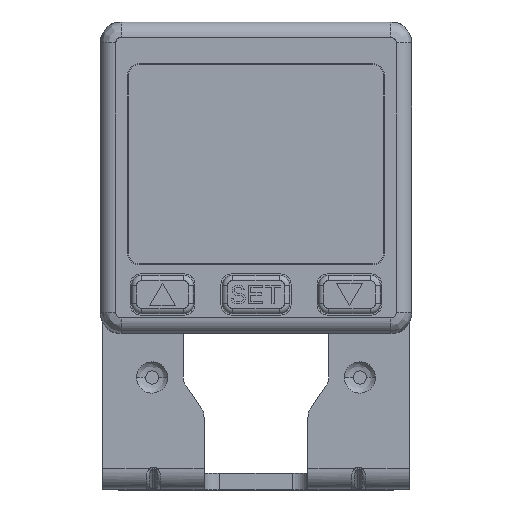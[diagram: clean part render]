
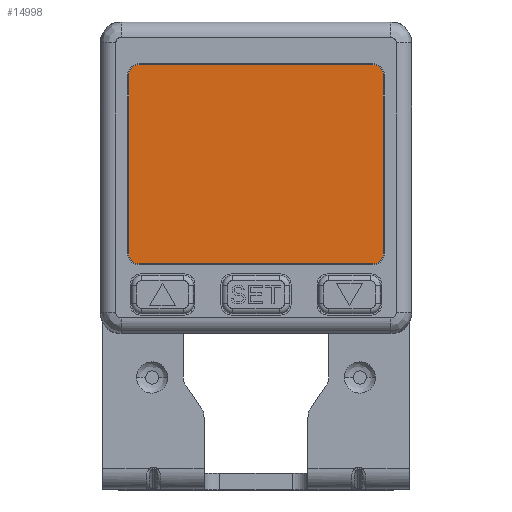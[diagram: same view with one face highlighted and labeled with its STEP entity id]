
A CAD part, top view. The second image highlights one B-rep face of the part: STEP entity #14998.
In plain terms, the highlighted planar face has unit normal (0, 0, 1).
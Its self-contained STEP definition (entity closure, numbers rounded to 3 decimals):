
#1349=CARTESIAN_POINT('',(8.499,19.758,40.525));
#1350=DIRECTION('',(0.,0.,1.));
#1351=DIRECTION('',(1.,0.,0.));
#1352=AXIS2_PLACEMENT_3D('',#1349,#1350,#1351);
#1362=CARTESIAN_POINT('',(8.499,2.558,40.525));
#1363=DIRECTION('',(0.,0.,1.));
#1364=DIRECTION('',(0.,-1.,0.));
#1365=AXIS2_PLACEMENT_3D('',#1362,#1363,#1364);
#1375=CARTESIAN_POINT('',(-14.001,2.558,40.525));
#1376=DIRECTION('',(0.,0.,1.));
#1377=DIRECTION('',(-1.,0.,0.));
#1378=AXIS2_PLACEMENT_3D('',#1375,#1376,#1377);
#1388=CARTESIAN_POINT('',(-14.001,19.758,40.525));
#1389=DIRECTION('',(0.,0.,1.));
#1390=DIRECTION('',(0.,1.,0.));
#1391=AXIS2_PLACEMENT_3D('',#1388,#1389,#1390);
#1397=DIRECTION('',(0.,1.,0.));
#1398=VECTOR('',#1397,17.2);
#1399=CARTESIAN_POINT('',(-15.001,2.558,40.525));
#1400=LINE('',#1399,#1398);
#1401=DIRECTION('',(1.,0.,0.));
#1402=VECTOR('',#1401,22.5);
#1403=CARTESIAN_POINT('',(-14.001,20.758,40.525));
#1404=LINE('',#1403,#1402);
#1405=DIRECTION('',(0.,-1.,0.));
#1406=VECTOR('',#1405,17.2);
#1407=CARTESIAN_POINT('',(9.499,19.758,40.525));
#1408=LINE('',#1407,#1406);
#1409=DIRECTION('',(-1.,0.,0.));
#1410=VECTOR('',#1409,22.5);
#1411=CARTESIAN_POINT('',(8.499,1.558,40.525));
#1412=LINE('',#1411,#1410);
#10955=CARTESIAN_POINT('',(9.499,19.758,40.525));
#10957=VERTEX_POINT('',#10955);
#10959=CARTESIAN_POINT('',(9.499,2.558,40.525));
#10961=VERTEX_POINT('',#10959);
#10963=CARTESIAN_POINT('',(8.499,1.558,40.525));
#10965=VERTEX_POINT('',#10963);
#10967=CARTESIAN_POINT('',(-14.001,1.558,40.525));
#10969=VERTEX_POINT('',#10967);
#10971=CARTESIAN_POINT('',(-15.001,2.558,40.525));
#10973=VERTEX_POINT('',#10971);
#10975=CARTESIAN_POINT('',(-15.001,19.758,40.525));
#10977=VERTEX_POINT('',#10975);
#10979=CARTESIAN_POINT('',(-14.001,20.758,40.525));
#10981=VERTEX_POINT('',#10979);
#10983=CARTESIAN_POINT('',(8.499,20.758,40.525));
#10985=VERTEX_POINT('',#10983);
#14983=CARTESIAN_POINT('',(-2.751,12.358,40.525));
#14984=DIRECTION('',(0.,0.,1.));
#14985=DIRECTION('',(1.,0.,0.));
#14986=AXIS2_PLACEMENT_3D('',#14983,#14984,#14985);
#14987=PLANE('',#14986);
#14988=ORIENTED_EDGE('',*,*,#14949,.T.);
#14989=ORIENTED_EDGE('',*,*,#14963,.F.);
#14990=ORIENTED_EDGE('',*,*,#14976,.T.);
#14991=ORIENTED_EDGE('',*,*,#14878,.F.);
#14992=ORIENTED_EDGE('',*,*,#14893,.T.);
#14993=ORIENTED_EDGE('',*,*,#14907,.F.);
#14994=ORIENTED_EDGE('',*,*,#14921,.T.);
#14995=ORIENTED_EDGE('',*,*,#14935,.F.);
#14996=EDGE_LOOP('',(#14988,#14989,#14990,#14991,#14992,#14993,#14994,#14995));
#14997=FACE_OUTER_BOUND('',#14996,.F.);
#14998=ADVANCED_FACE('',(#14997),#14987,.T.);
#1353=CIRCLE('',#1352,1.);
#1366=CIRCLE('',#1365,1.);
#1379=CIRCLE('',#1378,1.);
#1392=CIRCLE('',#1391,1.);
#14878=EDGE_CURVE('',#10957,#10985,#1353,.T.);
#14893=EDGE_CURVE('',#10957,#10961,#1408,.T.);
#14907=EDGE_CURVE('',#10965,#10961,#1366,.T.);
#14921=EDGE_CURVE('',#10965,#10969,#1412,.T.);
#14935=EDGE_CURVE('',#10973,#10969,#1379,.T.);
#14949=EDGE_CURVE('',#10973,#10977,#1400,.T.);
#14963=EDGE_CURVE('',#10981,#10977,#1392,.T.);
#14976=EDGE_CURVE('',#10981,#10985,#1404,.T.);
